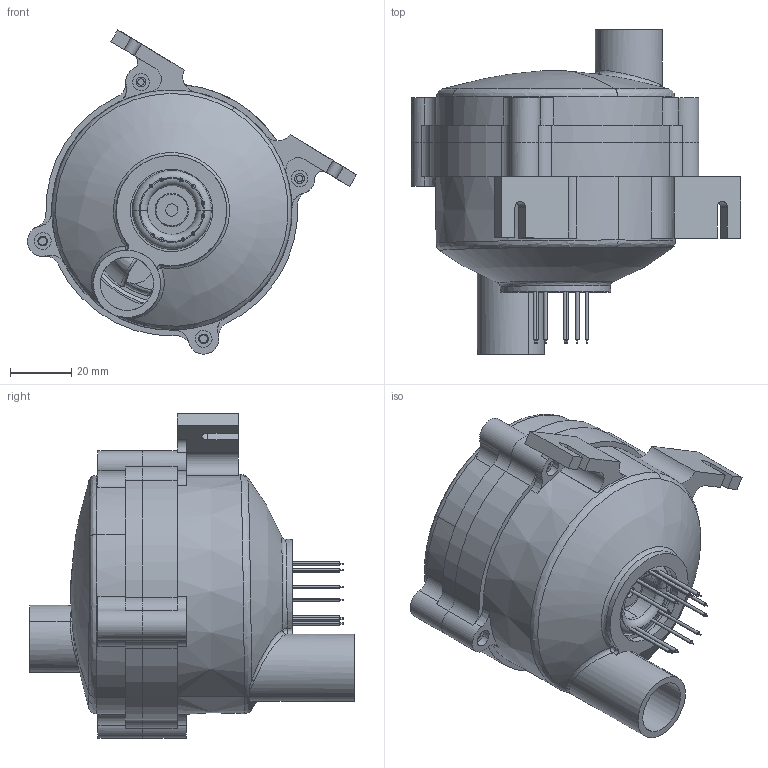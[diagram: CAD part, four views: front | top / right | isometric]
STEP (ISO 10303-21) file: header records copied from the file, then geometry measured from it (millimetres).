
FILE_DESCRIPTION((''),'2;1');
FILE_NAME('ALL-A_ASM_13_ASM','2026-07-22T16:18:32',('pc'),(''),'CREO PARAMETRIC BY PTC INC, 2018050','CREO PARAMETRIC BY PTC INC, 2018050','');
FILE_SCHEMA(('CONFIG_CONTROL_DESIGN','GEOMETRIC_VALIDATION_PROPERTIES_MIM'));
Length unit declared in the file: millimetre
Products named in the file (11): A-1_3; B-1_3; ASM0001_ASM_3_ASM; 000_3; 0003_5; _0001_11; PRT0001_17_1; PRT0001_17_2; PRT0001_17_ASM; BA6560_ASM; ALL-A_ASM_13_ASM
Assembly tree (10 placements, depth 4):
  ALL-A_ASM_13_ASM
    ASM0001_ASM_3_ASM
      A-1_3
      B-1_3
    000_3
    0003_5
    _0001_11
    BA6560_ASM
      PRT0001_17_ASM
        PRT0001_17_1
        PRT0001_17_2
Bounding box: 107.8 x 106.39 x 106.25 mm (x, y, z)
Volume: 162895 mm3; surface area: 99768.4 mm2
Topology: 7 solids, 7 shells, 865 faces, 2304 edges, 1526 vertices
Faces by surface type: cylinder 345, plane 203, bspline 157, torus 86, cone 60, revolution 10, sphere 3, extrusion 1
Entity records: 46186 total; most frequent: CARTESIAN_POINT 22401, ORIENTED_EDGE 4602, DIRECTION 4141, EDGE_CURVE 2301, AXIS2_PLACEMENT_3D 1801, VERTEX_POINT 1526, CIRCLE 1078, EDGE_LOOP 967
